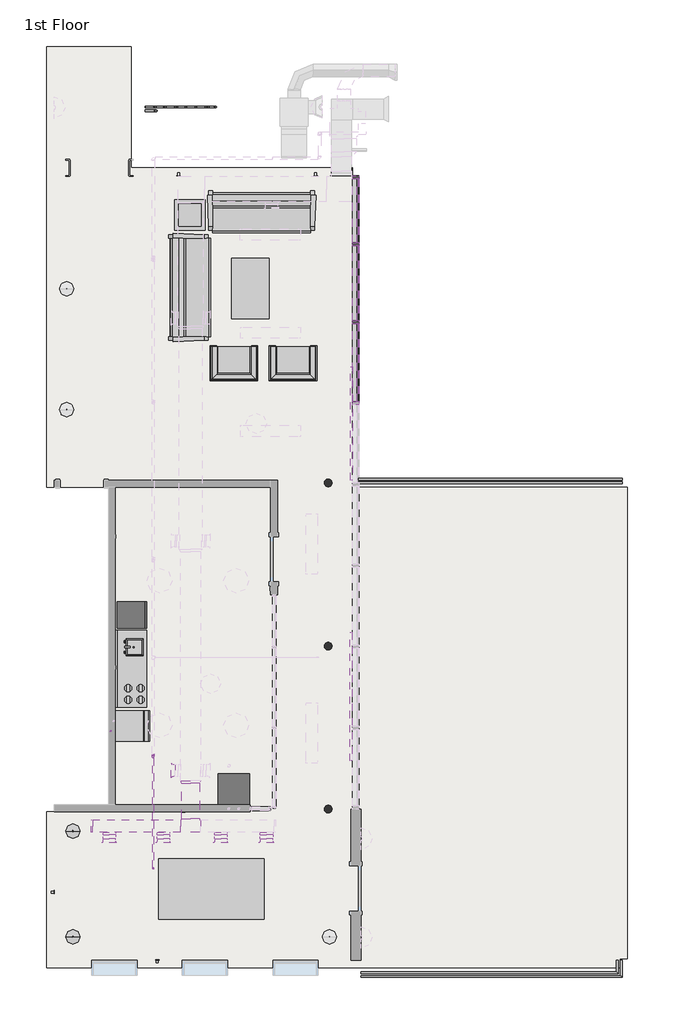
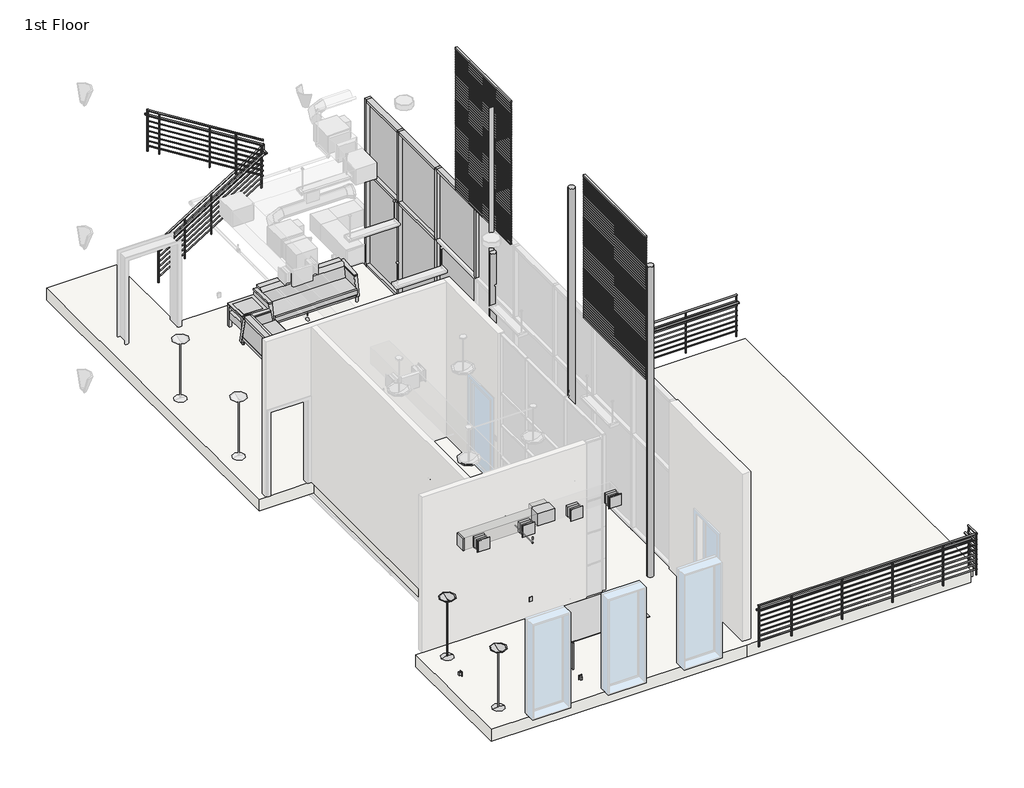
# One storey, part 2 of 4: 15 members, 9 furniture elements, 9 pipe segments, 7 duct fittings, 7 pipe fittings, 6 duct segments, 6 plates, 5 air terminals, 18 other elements.
"""IFC4 building model written with IfcOpenShell, lengths in millimetres."""

from ifc_helpers import new_model, si_unit, point, frame, frame_2d, origin, place, context, project, spatial, polyline, circle_curve, trimmed, segment, composite_curve, outline, extrude, faceted_brep, transform, mapped, element, save
from ifc_brep_helpers import plane_surface, cylinder_surface, advanced_brep
from components import air_terminal_0139ce82, air_terminal_37217d21, receptacle_gfci_367a9a66, rectangular_duct_endcap_standard_df86e6dc, rectangular_duct_takeoff_sidewall_standard_8ecd27dc, rectangular_duct_takeoff_sidewall_standard_de4d9739, rectangular_duct_tee_standard_5efa4bea, rectangular_duct_transition_standard_857d146e, fire_suppression_terminal_f250fbbb, flow_terminal_a640307d, flow_terminal_5101ce26, flow_terminal_2c84fc24, chair_corbu_chair_corbu_2764bdef, furniture_79813b58, furniture_fb1f61f5, furniture_102613a1, furniture_c1a6d451, furniture_480b9389, furniture_73d83834, light_fixture_120v_8a54b260, member_d60e8053, member_2fae0574, member_f0fea5a5, member_245f6595, member_6ce1ec76, member_69c58ec1, member_798c2a08, member_d386c7f1, member_ee409385, pipe_elbow_standard_aad62f2d, pipe_elbow1_standard_2_91f5270b, pipe_tee_standard_60c871d1, pipe_transition_eccentric_standard_8de4c794, system_panel_system_panel_6ff97b90, system_panel_system_panel_37b3a9aa, system_panel_system_panel_32437ed1, system_panel_system_panel_6c834083, system_panel_system_panel_0b02f3c1, system_panel_system_panel_958c1d96, guardrail_pipe_636c1e23, guardrail_pipe_18aa489d, guardrail_pipe_fbcf2664

model = new_model("IFC4")

# Units and contexts
model_context = context("Model", 3, world=origin())
ifc_project = project(units=[si_unit("LENGTHUNIT", "METRE", prefix="MILLI")], contexts=[model_context])

# Site, building, storey
site = spatial("IfcSite", under=ifc_project)
building = spatial("IfcBuilding", under=site)
storey = spatial("IfcBuildingStorey", under=building, Name="1st Floor", Elevation=3657.6)

# Air terminals
placement = place(None, origin())
air_terminal_shape = air_terminal_0139ce82(model_context)
element("IfcAirTerminal", 1, ObjectType="Sidewall Diffuser : 10\" x 10\"", at=placement, inside=storey, context=model_context, shape_type="MappedRepresentation", body=[
    mapped(air_terminal_shape, transform((-2094.0773731, -2854.6189983, 6400.8), x_axis=(0.0, 1.0, 0.0), y_axis=(-1.0, 0.0, 0.0), z_axis=(0.0, 0.0, 1.0))),
])
air_terminal_2_shape = air_terminal_37217d21(model_context)
element("IfcAirTerminal", 2, ObjectType="Sidewall Diffuser : 10\" x 10\"", at=placement, inside=storey, context=model_context, shape_type="MappedRepresentation", body=[
    mapped(air_terminal_2_shape, transform((-1095.1939612, -4307.6560979, 6400.8), x_axis=(1.0, 0.0, 0.0), y_axis=(0.0, 1.0, 0.0), z_axis=(0.0, 0.0, 1.0))),
])
element("IfcAirTerminal", 3, ObjectType="Sidewall Diffuser : 10\" x 10\"", at=placement, inside=storey, context=model_context, shape_type="MappedRepresentation", body=[
    mapped(air_terminal_2_shape, transform((-174.4439612, -4307.6560979, 6400.8), x_axis=(1.0, 0.0, 0.0), y_axis=(0.0, 1.0, 0.0), z_axis=(0.0, 0.0, 1.0))),
])
element("IfcAirTerminal", 4, ObjectType="Sidewall Diffuser : 10\" x 10\"", at=placement, inside=storey, context=model_context, shape_type="MappedRepresentation", body=[
    mapped(air_terminal_shape, transform((-2257.2439612, -4307.6560979, 6400.8), x_axis=(-1.0, 0.0, 0.0), y_axis=(0.0, -1.0, 0.0), z_axis=(0.0, 0.0, 1.0))),
])
element("IfcAirTerminal", 5, ObjectType="Sidewall Diffuser : 10\" x 10\"", at=placement, inside=storey, context=model_context, shape_type="MappedRepresentation", body=[
    mapped(air_terminal_shape, transform((-3349.4439612, -4307.6560979, 6400.8), x_axis=(-1.0, 0.0, 0.0), y_axis=(0.0, -1.0, 0.0), z_axis=(0.0, 0.0, 1.0))),
])

# Proxies
receptacle_gfci_shape = receptacle_gfci_367a9a66(model_context)
element("IfcBuildingElementProxy", 6, Name="Receptacle : Standard", ObjectType="Receptacle : Standard", at=placement, inside=storey, context=model_context, shape_type="MappedRepresentation", body=[
    mapped(receptacle_gfci_shape, transform((-2536.6439612, -3553.1189983, 4114.8), x_axis=(-1.0, 0.0, 0.0), y_axis=(0.0, 0.0, 1.0), z_axis=(0.0, 1.0, 0.0))),
])
element("IfcBuildingElementProxy", 7, Name="Receptacle : Standard", ObjectType="Receptacle : Standard", at=placement, inside=storey, context=model_context, shape_type="MappedRepresentation", body=[
    mapped(receptacle_gfci_shape, transform((-1853.9604947, -3692.8189983, 4114.8), x_axis=(1.0, 0.0, 0.0), y_axis=(0.0, 0.0, 1.0), z_axis=(0.0, -1.0, 0.0))),
])
element("IfcBuildingElementProxy", 8, Name="Receptacle : Standard", ObjectType="Receptacle : Standard", at=placement, inside=storey, context=model_context, shape_type="MappedRepresentation", body=[
    mapped(receptacle_gfci_shape, transform((-4467.0439612, -5312.940357, 4114.8), x_axis=(0.0, 1.0, 0.0), y_axis=(0.0, 0.0, 1.0), z_axis=(1.0, 0.0, 0.0))),
])
element("IfcBuildingElementProxy", 9, Name="Receptacle : Standard", ObjectType="Receptacle : Standard", at=placement, inside=storey, context=model_context, shape_type="MappedRepresentation", body=[
    mapped(receptacle_gfci_shape, transform((-2384.2439612, -6684.540357, 4114.8), x_axis=(-1.0, 0.0, 0.0), y_axis=(0.0, 0.0, 1.0), z_axis=(0.0, 1.0, 0.0))),
])

# Columns
element("IfcColumn", 10, ObjectType="Round Column : 06\" Diameter", at=placement, inside=storey, context=model_context, shape_type="AdvancedBrep", body=[
    advanced_brep(
    [(1126.1605983, 3000.0810017, 11582.4), (1070.1560388, 3024.609643, 11582.4), (1014.1514793, 3000.0810017, 11582.4), (1146.3560388, 2948.409643, 3657.6), (993.9560388, 2948.409643, 3657.6), (1070.1560388, 3024.609643, 3657.6), (1126.1605983, 3000.0810017, 7924.8), (1146.3560388, 2948.409643, 7924.8), (993.9560388, 2948.409643, 7924.8), (1014.1514793, 3000.0810017, 7924.8)],
    [
        (0, 1, circle_curve(frame((1070.1560388, 2948.409643, 11582.4), z_axis=(0.0, 0.0, 1.0), x_axis=(1.0, 0.0, 0.0)), 76.2)),
        (1, 2, circle_curve(frame((1070.1560388, 2948.409643, 11582.4), z_axis=(0.0, 0.0, 1.0), x_axis=(1.0, 0.0, 0.0)), 76.2)),
        (2, 0),
        (3, 4, circle_curve(frame((1070.1560388, 2948.409643, 3657.6), z_axis=(0.0, 0.0, -1.0), x_axis=(1.0, 0.0, 0.0)), 76.2)),
        (4, 5, circle_curve(frame((1070.1560388, 2948.409643, 3657.6), z_axis=(0.0, 0.0, -1.0), x_axis=(1.0, 0.0, 0.0)), 76.2)),
        (5, 3, circle_curve(frame((1070.1560388, 2948.409643, 3657.6), z_axis=(0.0, 0.0, -1.0), x_axis=(1.0, 0.0, 0.0)), 76.2)),
        (5, 1),
        (0, 6),
        (6, 7, circle_curve(frame((1070.1560388, 2948.409643, 7924.8), z_axis=(0.0, 0.0, -1.0), x_axis=(1.0, 0.0, 0.0)), 76.2)),
        (7, 3),
        (4, 8),
        (8, 9, circle_curve(frame((1070.1560388, 2948.409643, 7924.8), z_axis=(0.0, 0.0, -1.0), x_axis=(1.0, 0.0, 0.0)), 76.2)),
        (9, 2),
        (7, 8, circle_curve(frame((1070.1560388, 2948.409643, 7924.8), z_axis=(0.0, 0.0, -1.0), x_axis=(1.0, 0.0, 0.0)), 76.2)),
        (9, 6),
    ],
    [
        plane_surface(frame((1146.3560388, 2948.409643, 11582.4), z_axis=(0.0, 0.0, 1.0), x_axis=(0.0, 1.0, 0.0))),
        plane_surface(frame((1146.3560388, 2948.409643, 3657.6), z_axis=(0.0, 0.0, -1.0), x_axis=(0.0, -1.0, 0.0))),
        cylinder_surface(frame((1070.1560388, 2948.409643, 3657.6), z_axis=(0.0, 0.0, 1.0), x_axis=(1.0, 0.0, 0.0)), 76.2),
        plane_surface(frame((-4460.5633563, 3000.0810017, 7924.8), z_axis=(0.0, -1.0, 0.0), x_axis=(-1.0, 0.0, 0.0))),
        plane_surface(frame((-2819.1604947, 2860.3810017, 7924.8), z_axis=(0.0, 0.0, 1.0), x_axis=(0.0, 1.0, 0.0))),
    ],
    [
        (0, [[1, 2, 3]]),
        (1, [[4, 5, 6]]),
        (2, [[-6, 7, -1, 8, 9, 10]]),
        (2, [[-5, 11, 12, 13, -2, -7]]),
        (2, [[-4, -10, 14, -11]]),
        (3, [[15, -8, -3, -13]]),
        (4, [[-15, -12, -14, -9]]),
    ],
),
])
element("IfcColumn", 11, ObjectType="Round Column : 06\" Diameter", at=placement, inside=storey, context=model_context, shape_type="SweptSolid", body=[
    extrude(outline(composite_curve([segment(trimmed(circle_curve(frame_2d((1070.1560388, -347.240357)), 76.2), [point((1146.3560388, -347.240357))], [point((993.9560388, -347.240357))], False, "CARTESIAN"), True, "CONTINUOUS"), segment(trimmed(circle_curve(frame_2d((1070.1560388, -347.240357)), 76.2), [point((993.9560388, -347.240357))], [point((1070.1560388, -271.040357))], False, "CARTESIAN"), True, "CONTINUOUS"), segment(trimmed(circle_curve(frame_2d((1070.1560388, -347.240357)), 76.2), [point((1070.1560388, -271.040357))], [point((1146.3560388, -347.240357))], False, "CARTESIAN"), True, "CONTINUOUS")], self_intersect=False)), frame((0.0, 0.0, 3657.6), z_axis=(0.0, 0.0, 1.0), x_axis=(1.0, 0.0, 0.0)), (0.0, 0.0, 1.0), 7924.8),
])
element("IfcColumn", 12, ObjectType="Round Column : 06\" Diameter", at=placement, inside=storey, context=model_context, shape_type="SweptSolid", body=[
    extrude(outline(composite_curve([segment(trimmed(circle_curve(frame_2d((1070.1560388, -3636.540357)), 76.2), [point((1146.3560388, -3636.540357))], [point((993.9560388, -3636.540357))], False, "CARTESIAN"), True, "CONTINUOUS"), segment(trimmed(circle_curve(frame_2d((1070.1560388, -3636.540357)), 76.2), [point((993.9560388, -3636.540357))], [point((1070.1560388, -3560.340357))], False, "CARTESIAN"), True, "CONTINUOUS"), segment(trimmed(circle_curve(frame_2d((1070.1560388, -3636.540357)), 76.2), [point((1070.1560388, -3560.340357))], [point((1146.3560388, -3636.540357))], False, "CARTESIAN"), True, "CONTINUOUS")], self_intersect=False)), frame((0.0, 0.0, 3657.6), z_axis=(0.0, 0.0, 1.0), x_axis=(1.0, 0.0, 0.0)), (0.0, 0.0, 1.0), 7924.8),
])

# Duct fittings
rectangular_duct_endcap_standard_shape = rectangular_duct_endcap_standard_df86e6dc(model_context)
element("IfcDuctFitting", 13, ObjectType="Rectangular Duct Endcap : Standard", at=placement, inside=storey, context=model_context, shape_type="MappedRepresentation", body=[
    mapped(rectangular_duct_endcap_standard_shape, transform((-3690.0783838, -3978.5689983, 6400.8), x_axis=(-1.0, 0.0, 0.0), y_axis=(0.0, -1.0, 0.0), z_axis=(0.0, 0.0, 1.0))),
])
rectangular_duct_takeoff_sidewall_standard_shape = rectangular_duct_takeoff_sidewall_standard_8ecd27dc(model_context)
element("IfcDuctFitting", 14, ObjectType="Rectangular Duct Takeoff - Sidewall : Standard", at=placement, inside=storey, context=model_context, shape_type="MappedRepresentation", body=[
    mapped(rectangular_duct_takeoff_sidewall_standard_shape, transform((-1095.1939612, -4105.5689983, 6400.8), x_axis=(0.0, -1.0, 0.0), y_axis=(-1.0, 0.0, 0.0), z_axis=(0.0, 0.0, -1.0))),
])
rectangular_duct_takeoff_sidewall_standard_2_shape = rectangular_duct_takeoff_sidewall_standard_de4d9739(model_context)
element("IfcDuctFitting", 15, ObjectType="Rectangular Duct Takeoff - Sidewall : Standard", at=placement, inside=storey, context=model_context, shape_type="MappedRepresentation", body=[
    mapped(rectangular_duct_takeoff_sidewall_standard_2_shape, transform((-3349.4439612, -4105.5689983, 6400.8), x_axis=(0.0, -1.0, 0.0), y_axis=(-1.0, 0.0, 0.0), z_axis=(0.0, 0.0, -1.0))),
])
element("IfcDuctFitting", 16, ObjectType="Rectangular Duct Takeoff - Sidewall : Standard", at=placement, inside=storey, context=model_context, shape_type="MappedRepresentation", body=[
    mapped(rectangular_duct_takeoff_sidewall_standard_2_shape, transform((-2257.2439612, -4105.5689983, 6400.8), x_axis=(0.0, -1.0, 0.0), y_axis=(-1.0, 0.0, 0.0), z_axis=(0.0, 0.0, -1.0))),
])
element("IfcDuctFitting", 17, ObjectType="Rectangular Duct Takeoff - Sidewall : Standard", at=placement, inside=storey, context=model_context, shape_type="MappedRepresentation", body=[
    mapped(rectangular_duct_takeoff_sidewall_standard_2_shape, transform((-174.4439612, -4105.5689983, 6400.8), x_axis=(0.0, -1.0, 0.0), y_axis=(-1.0, 0.0, 0.0), z_axis=(0.0, 0.0, -1.0))),
])
rectangular_duct_tee_standard_shape = rectangular_duct_tee_standard_5efa4bea(model_context)
element("IfcDuctFitting", 18, ObjectType="Rectangular Duct Tee : Standard", at=placement, inside=storey, context=model_context, shape_type="MappedRepresentation", body=[
    mapped(rectangular_duct_tee_standard_shape, transform((-1708.8783838, -3978.5689983, 6400.8), x_axis=(-1.0, 0.0, 0.0), y_axis=(0.0, -1.0, 0.0), z_axis=(0.0, 0.0, 1.0))),
])
rectangular_duct_transition_standard_shape = rectangular_duct_transition_standard_857d146e(model_context)
element("IfcDuctFitting", 19, ObjectType="Rectangular Duct Transition : Standard", at=placement, inside=storey, context=model_context, shape_type="MappedRepresentation", body=[
    mapped(rectangular_duct_transition_standard_shape, transform((-1708.8783838, -3061.2262132, 6400.8), x_axis=(0.0, -1.0, 0.0), y_axis=(-1.0, 0.0, 0.0), z_axis=(0.0, 0.0, -1.0))),
])

# Duct segments
element("IfcDuctSegment", 20, ObjectType="Mitered Elbows / Taps Sidewall", at=placement, inside=storey, context=model_context, shape_type="SweptSolid", body=[
    extrude(outline(polyline([(-3476.4439612, -4156.3689983), (-3222.4439612, -4156.3689983), (-3222.4439612, -4231.4560979), (-3476.4439612, -4231.4560979), (-3476.4439612, -4156.3689983)])), frame((0.0, 0.0, 6273.8), z_axis=(0.0, 0.0, 1.0), x_axis=(1.0, 0.0, 0.0)), (0.0, 0.0, 1.0), 254.0),
])
element("IfcDuctSegment", 21, ObjectType="Mitered Elbows / Taps Sidewall", at=placement, inside=storey, context=model_context, shape_type="SweptSolid", body=[
    extrude(outline(polyline([(-2384.2439612, -4156.3689983), (-2130.2439612, -4156.3689983), (-2130.2439612, -4231.4560979), (-2384.2439612, -4231.4560979), (-2384.2439612, -4156.3689983)])), frame((0.0, 0.0, 6273.8), z_axis=(0.0, 0.0, 1.0), x_axis=(1.0, 0.0, 0.0)), (0.0, 0.0, 1.0), 254.0),
])
element("IfcDuctSegment", 22, ObjectType="Mitered Elbows / Taps Sidewall", at=placement, inside=storey, context=model_context, shape_type="SweptSolid", body=[
    extrude(outline(polyline([(-1222.1939612, -4156.3689983), (-968.1939612, -4156.3689983), (-968.1939612, -4231.4560979), (-1222.1939612, -4231.4560979), (-1222.1939612, -4156.3689983)])), frame((0.0, 0.0, 6273.8), z_axis=(0.0, 0.0, 1.0), x_axis=(1.0, 0.0, 0.0)), (0.0, 0.0, 1.0), 254.0),
])
element("IfcDuctSegment", 23, ObjectType="Mitered Elbows / Taps Sidewall", at=placement, inside=storey, context=model_context, shape_type="SweptSolid", body=[
    extrude(outline(polyline([(-301.4439612, -4156.3689983), (-47.4439612, -4156.3689983), (-47.4439612, -4231.4560979), (-301.4439612, -4231.4560979), (-301.4439612, -4156.3689983)])), frame((0.0, 0.0, 6273.8), z_axis=(0.0, 0.0, 1.0), x_axis=(1.0, 0.0, 0.0)), (0.0, 0.0, 1.0), 254.0),
])
element("IfcDuctSegment", 24, ObjectType="Mitered Elbows / Tees", at=placement, inside=storey, context=model_context, shape_type="SweptSolid", body=[
    extrude(outline(polyline([(-1886.6783838, -3112.0262132), (-1531.0783838, -3112.0262132), (-1531.0783838, -3826.1689983), (-1886.6783838, -3826.1689983), (-1886.6783838, -3112.0262132)])), frame((0.0, 0.0, 6248.4), z_axis=(0.0, 0.0, 1.0), x_axis=(1.0, 0.0, 0.0)), (0.0, 0.0, 1.0), 304.8),
])
element("IfcDuctSegment", 25, ObjectType="Radius Elbows / Tees", at=placement, inside=storey, context=model_context, shape_type="SweptSolid", body=[
    extrude(outline(polyline([(-1912.0783838, -3851.5689983), (-1912.0783838, -4105.5689983), (-3690.0783838, -4105.5689983), (-3690.0783838, -3851.5689983), (-1912.0783838, -3851.5689983)])), frame((0.0, 0.0, 6248.4), z_axis=(0.0, 0.0, 1.0), x_axis=(1.0, 0.0, 0.0)), (0.0, 0.0, 1.0), 304.8),
])

# Fire suppression terminals
fire_suppression_terminal_shape = fire_suppression_terminal_f250fbbb(model_context)
element("IfcFireSuppressionTerminal", 26, ObjectType="Sprinkler - Upright : 1/2\" Upright", at=placement, inside=storey, context=model_context, shape_type="MappedRepresentation", body=[
    mapped(fire_suppression_terminal_shape, transform((-2463.5604947, -2556.1689983, 6553.2), x_axis=(1.0, 0.0, 0.0), y_axis=(0.0, 1.0, 0.0), z_axis=(0.0, 0.0, 1.0))),
])
element("IfcFireSuppressionTerminal", 27, ObjectType="Sprinkler - Upright : 1/2\" Upright", at=placement, inside=storey, context=model_context, shape_type="MappedRepresentation", body=[
    mapped(fire_suppression_terminal_shape, transform((-2463.5604947, -4842.1689983, 6553.2), x_axis=(1.0, 0.0, 0.0), y_axis=(0.0, 1.0, 0.0), z_axis=(0.0, 0.0, 1.0))),
])

# Flow terminals
flow_terminal_shape = flow_terminal_a640307d(model_context)
element("IfcFlowTerminal", 28, ObjectType="Dishwasher : 24\"x26\"", at=placement, inside=storey, context=model_context, shape_type="MappedRepresentation", body=[
    mapped(flow_terminal_shape, transform((-3228.7939612, -1960.1220659, 3657.6), x_axis=(1.0, 0.0, 0.0), y_axis=(0.0, 1.0, 0.0), z_axis=(0.0, 0.0, 1.0))),
])
flow_terminal_2_shape = flow_terminal_5101ce26(model_context)
element("IfcFlowTerminal", 29, ObjectType="Kitchen Unit : 25\"x84\"", at=placement, inside=storey, context=model_context, shape_type="MappedRepresentation", body=[
    mapped(flow_terminal_2_shape, transform((-3228.788311, -804.440357, 3656.7916082), x_axis=(1.0, 0.0, 0.0), y_axis=(0.0, 1.0, 0.0), z_axis=(0.0, 0.0, 1.0))),
])
flow_terminal_3_shape = flow_terminal_2c84fc24(model_context)
element("IfcFlowTerminal", 30, ObjectType="Stacked Washer and Dryer : 26\" x 25\"", at=placement, inside=storey, context=model_context, shape_type="MappedRepresentation", body=[
    mapped(flow_terminal_3_shape, transform((-835.4514215, -3584.8689983, 3657.6), x_axis=(0.0, 1.0000000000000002, 0.0), y_axis=(-1.0000000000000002, 0.0, 0.0), z_axis=(0.0, 0.0, 1.0))),
])

# Furniture
chair_corbu_chair_corbu_shape = chair_corbu_chair_corbu_2764bdef(model_context)
element("IfcFurniture", 31, ObjectType="Chair-Corbu : Chair-Corbu", at=placement, inside=storey, context=model_context, shape_type="MappedRepresentation", body=[
    mapped(chair_corbu_chair_corbu_shape, transform((-261.4701907, 5828.6440797, 3657.6), x_axis=(-1.0, 0.0, 0.0), y_axis=(0.0, -1.0, 0.0), z_axis=(0.0, 0.0, 1.0))),
])
element("IfcFurniture", 32, ObjectType="Chair-Corbu : Chair-Corbu", at=placement, inside=storey, context=model_context, shape_type="MappedRepresentation", body=[
    mapped(chair_corbu_chair_corbu_shape, transform((932.3298093, 5828.6440797, 3657.6), x_axis=(-1.0, 0.0, 0.0), y_axis=(0.0, -1.0, 0.0), z_axis=(0.0, 0.0, 1.0))),
])
furniture_shape = furniture_79813b58(model_context)
element("IfcFurniture", 33, ObjectType="Living Room Tables : 24\" x 24\" x 23\"", at=placement, inside=storey, context=model_context, shape_type="MappedRepresentation", body=[
    mapped(furniture_shape, transform((-1740.3528156, 8260.8417791, 3657.6), x_axis=(1.0, 0.0, 0.0), y_axis=(0.0, 1.0, 0.0), z_axis=(0.0, 0.0, 1.0))),
])
furniture_2_shape = furniture_fb1f61f5(model_context)
element("IfcFurniture", 34, ObjectType="Sofa-Pensi : 84\"", at=placement, inside=storey, context=model_context, shape_type="MappedRepresentation", body=[
    mapped(furniture_2_shape, transform((-553.8564612, 8140.9399708, 3657.6), x_axis=(1.0, 0.0, 0.0), y_axis=(0.0, 1.0, 0.0), z_axis=(0.0, 0.0, 1.0))),
])
element("IfcFurniture", 35, ObjectType="Sofa-Pensi : 84\"", at=placement, inside=storey, context=model_context, shape_type="MappedRepresentation", body=[
    mapped(furniture_2_shape, transform((-1450.4373261, 6613.947143, 3657.6), x_axis=(0.0, 1.0, 0.0), y_axis=(-1.0, 0.0, 0.0), z_axis=(0.0, 0.0, 1.0))),
])
furniture_3_shape = furniture_102613a1(model_context)
element("IfcFurniture", 36, ObjectType="Table-Coffee Rectangular : 48\" x 30\"", at=placement, inside=storey, context=model_context, shape_type="MappedRepresentation", body=[
    mapped(furniture_3_shape, transform((-135.0331294, 6259.5754363, 3657.6), x_axis=(0.0, 1.0000000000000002, 0.0), y_axis=(-1.0000000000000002, 0.0, 0.0), z_axis=(0.0, 0.0, 1.0))),
])
furniture_4_shape = furniture_c1a6d451(model_context)
element("IfcFurniture", 37, ObjectType="Table-Dining : 48\" x 84\" x 30\"", at=placement, inside=storey, context=model_context, shape_type="MappedRepresentation", body=[
    mapped(furniture_4_shape, transform((-1310.3097279, -5343.7800761, 3657.6), x_axis=(1.0, 0.0, 0.0), y_axis=(0.0, 1.0, 0.0), z_axis=(0.0, 0.0, 1.0))),
])
furniture_5_shape = furniture_480b9389(model_context)
element("IfcFurniture", 38, ObjectType="Wooden Blinds : 7' 6\" x 12'", at=placement, inside=storey, context=model_context, shape_type="MappedRepresentation", body=[
    mapped(furniture_5_shape, transform((1521.0060388, 3004.8435017, 11582.4), x_axis=(0.0, 1.0, 0.0), y_axis=(1.0, 0.0, 0.0), z_axis=(0.0, 0.0, -1.0))),
])
furniture_6_shape = furniture_73d83834(model_context)
element("IfcFurniture", 39, ObjectType="Wooden Blinds : 8' 6\" x 12'", at=placement, inside=storey, context=model_context, shape_type="MappedRepresentation", body=[
    mapped(furniture_6_shape, transform((1514.6560388, -2661.2825454, 11582.4), x_axis=(0.0, 1.0, 0.0), y_axis=(1.0, 0.0, 0.0), z_axis=(0.0, 0.0, -1.0))),
])

# Light fixtures
light_fixture_120v_shape = light_fixture_120v_8a54b260(model_context)
element("IfcLightFixture", 40, ObjectType="Floor Lamp - Torchiere : 120V", at=placement, inside=storey, context=model_context, shape_type="MappedRepresentation", body=[
    mapped(light_fixture_120v_shape, transform((-4086.0439612, -6213.7689983, 3657.6), x_axis=(1.0, 0.0, 0.0), y_axis=(0.0, 1.0, 0.0), z_axis=(0.0, 0.0, 1.0))),
])
element("IfcLightFixture", 41, ObjectType="Floor Lamp - Torchiere : 120V", at=placement, inside=storey, context=model_context, shape_type="MappedRepresentation", body=[
    mapped(light_fixture_120v_shape, transform((-4086.0439612, -4080.1689983, 3657.6), x_axis=(1.0, 0.0, 0.0), y_axis=(0.0, 1.0, 0.0), z_axis=(0.0, 0.0, 1.0))),
])

# Members
member_shape = member_d60e8053(model_context)
element("IfcMember", 42, ObjectType="Rectangular Mullion : 2.5\" x 5\" rectangular", at=placement, inside=storey, context=model_context, shape_type="MappedRepresentation", body=[
    mapped(member_shape, transform((1628.9560388, 6193.259643, 6096.0), x_axis=(0.0, -1.0, 0.0), y_axis=(-1.0, 0.0, 0.0), z_axis=(0.0, 0.0, -1.0))),
])
element("IfcMember", 43, ObjectType="Rectangular Mullion : 2.5\" x 5\" rectangular", at=placement, inside=storey, context=model_context, shape_type="MappedRepresentation", body=[
    mapped(member_shape, transform((1628.9560388, 4554.959643, 6096.0), x_axis=(0.0, -1.0, 0.0), y_axis=(-1.0, 0.0, 0.0), z_axis=(0.0, 0.0, -1.0))),
])
element("IfcMember", 44, ObjectType="Rectangular Mullion : 2.5\" x 5\" rectangular", at=placement, inside=storey, context=model_context, shape_type="MappedRepresentation", body=[
    mapped(member_shape, transform((1628.9560388, 7768.059643, 6096.0), x_axis=(0.0, -1.0, 0.0), y_axis=(-1.0, 0.0, 0.0), z_axis=(0.0, 0.0, -1.0))),
])
member_2_shape = member_2fae0574(model_context)
element("IfcMember", 45, ObjectType="Rectangular Mullion : 2.5\" x 5\" rectangular", at=placement, inside=storey, context=model_context, shape_type="MappedRepresentation", body=[
    mapped(member_2_shape, transform((1628.9560388, 9152.359643, 7924.8), x_axis=(0.0, 1.0, 0.0), y_axis=(-1.0, 0.0, 0.0), z_axis=(0.0, 0.0, 1.0))),
])
member_3_shape = member_f0fea5a5(model_context)
element("IfcMember", 46, ObjectType="Rectangular Mullion : 2.5\" x 5\" rectangular", at=placement, inside=storey, context=model_context, shape_type="MappedRepresentation", body=[
    mapped(member_3_shape, transform((1628.9560388, 6193.259643, 3657.6), x_axis=(0.0, -1.0, 0.0), y_axis=(-1.0, 0.0, 0.0), z_axis=(0.0, 0.0, -1.0))),
])
element("IfcMember", 47, ObjectType="Rectangular Mullion : 2.5\" x 5\" rectangular", at=placement, inside=storey, context=model_context, shape_type="MappedRepresentation", body=[
    mapped(member_3_shape, transform((1628.9560388, 7768.059643, 3657.6), x_axis=(0.0, -1.0, 0.0), y_axis=(-1.0, 0.0, 0.0), z_axis=(0.0, 0.0, -1.0))),
])
member_4_shape = member_245f6595(model_context)
element("IfcMember", 48, ObjectType="Rectangular Mullion : 2.5\" x 5\" rectangular", at=placement, inside=storey, context=model_context, shape_type="MappedRepresentation", body=[
    mapped(member_4_shape, transform((1628.9560388, 6225.009643, 6096.0), x_axis=(0.0, 0.0, 1.0), y_axis=(-1.0, 0.0, 0.0), z_axis=(0.0, -1.0, 0.0))),
])
member_5_shape = member_6ce1ec76(model_context)
element("IfcMember", 49, ObjectType="Rectangular Mullion : 2.5\" x 5\" rectangular", at=placement, inside=storey, context=model_context, shape_type="MappedRepresentation", body=[
    mapped(member_5_shape, transform((1628.9560388, 4586.709643, 7924.8), x_axis=(0.0, 0.0, 1.0), y_axis=(-1.0, 0.0, 0.0), z_axis=(0.0, -1.0, 0.0))),
])
member_6_shape = member_69c58ec1(model_context)
element("IfcMember", 50, ObjectType="Rectangular Mullion : 2.5\" x 5\" rectangular", at=placement, inside=storey, context=model_context, shape_type="MappedRepresentation", body=[
    mapped(member_6_shape, transform((1628.9560388, 6225.009643, 7924.8), x_axis=(0.0, 0.0, 1.0), y_axis=(-1.0, 0.0, 0.0), z_axis=(0.0, -1.0, 0.0))),
])
member_7_shape = member_798c2a08(model_context)
element("IfcMember", 51, ObjectType="Rectangular Mullion : 2.5\" x 5\" rectangular", at=placement, inside=storey, context=model_context, shape_type="MappedRepresentation", body=[
    mapped(member_7_shape, transform((1628.9560388, 7799.809643, 7924.8), x_axis=(0.0, 0.0, 1.0), y_axis=(-1.0, 0.0, 0.0), z_axis=(0.0, -1.0, 0.0))),
])
member_8_shape = member_d386c7f1(model_context)
element("IfcMember", 52, ObjectType="Rectangular Mullion : 2.5\" x 5\" rectangular", at=placement, inside=storey, context=model_context, shape_type="MappedRepresentation", body=[
    mapped(member_8_shape, transform((1628.9560388, 7799.809643, 6096.0), x_axis=(0.0, 0.0, 1.0), y_axis=(-1.0, 0.0, 0.0), z_axis=(0.0, -1.0, 0.0))),
])
element("IfcMember", 53, ObjectType="Rectangular Mullion : 2.5\" x 5\" rectangular", at=placement, inside=storey, context=model_context, shape_type="MappedRepresentation", body=[
    mapped(member_7_shape, transform((1628.9560388, 9088.859643, 3657.6), x_axis=(0.0, 0.0, -1.0), y_axis=(-1.0, 0.0, 0.0), z_axis=(0.0, 1.0, 0.0))),
])
element("IfcMember", 54, ObjectType="Rectangular Mullion : 2.5\" x 5\" rectangular", at=placement, inside=storey, context=model_context, shape_type="MappedRepresentation", body=[
    mapped(member_5_shape, transform((1628.9560388, 6161.509643, 3657.6), x_axis=(0.0, 0.0, -1.0), y_axis=(-1.0, 0.0, 0.0), z_axis=(0.0, 1.0, 0.0))),
])
element("IfcMember", 55, ObjectType="Rectangular Mullion : 2.5\" x 5\" rectangular", at=placement, inside=storey, context=model_context, shape_type="MappedRepresentation", body=[
    mapped(member_6_shape, transform((1628.9560388, 7736.309643, 3657.6), x_axis=(0.0, 0.0, -1.0), y_axis=(-1.0, 0.0, 0.0), z_axis=(0.0, 1.0, 0.0))),
])
member_9_shape = member_ee409385(model_context)
element("IfcMember", 56, ObjectType="Rectangular Mullion : 2.5\" x 5\" rectangular", at=placement, inside=storey, context=model_context, shape_type="MappedRepresentation", body=[
    mapped(member_9_shape, transform((1628.9560388, 9152.359643, 6096.0), x_axis=(0.0, 1.0, 0.0), y_axis=(-1.0, 0.0, 0.0), z_axis=(0.0, 0.0, 1.0))),
])

# Pipe fittings
pipe_elbow_standard_shape = pipe_elbow_standard_aad62f2d(model_context)
element("IfcPipeFitting", 57, ObjectType="Pipe Elbow1 : Standard 2", at=placement, inside=storey, context=model_context, shape_type="MappedRepresentation", body=[
    mapped(pipe_elbow_standard_shape, transform((-3324.0439612, -2064.8991823, 3962.4), x_axis=(0.0, 0.0, -1.0), y_axis=(1.0, 0.0, 0.0), z_axis=(0.0, -1.0, 0.0))),
])
element("IfcPipeFitting", 58, ObjectType="Pipe Elbow1 : Standard 2", at=placement, inside=storey, context=model_context, shape_type="MappedRepresentation", body=[
    mapped(pipe_elbow_standard_shape, transform((-3324.0439612, -2064.8991823, 6705.6), x_axis=(0.0, 0.0, 1.0), y_axis=(0.0, 1.0, 0.0), z_axis=(-1.0, 0.0, 0.0))),
])
element("IfcPipeFitting", 59, ObjectType="Pipe Elbow1 : Standard 2", at=placement, inside=storey, context=model_context, shape_type="MappedRepresentation", body=[
    mapped(pipe_elbow_standard_shape, transform((-2463.5604947, -4842.1689983, 6451.6), x_axis=(0.0, 0.0, -1.0), y_axis=(0.0, 1.0, 0.0), z_axis=(1.0, 0.0, 0.0))),
])
pipe_elbow1_standard_2_shape = pipe_elbow1_standard_2_91f5270b(model_context)
element("IfcPipeFitting", 60, ObjectType="Pipe Elbow1 : Standard 2", at=placement, inside=storey, context=model_context, shape_type="MappedRepresentation", body=[
    mapped(pipe_elbow1_standard_2_shape, transform((-3298.6295637, -3638.7114887, 3295.8687628), x_axis=(0.0, -0.9999457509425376, 0.01041610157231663), y_axis=(0.999945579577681, 0.00010866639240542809, 0.010431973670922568), z_axis=(-0.010432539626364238, 0.010415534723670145, 0.999891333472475))),
])
pipe_tee_standard_shape = pipe_tee_standard_60c871d1(model_context)
element("IfcPipeFitting", 61, ObjectType="Pipe Tee : Standard", at=placement, inside=storey, context=model_context, shape_type="MappedRepresentation", body=[
    mapped(pipe_tee_standard_shape, transform((-2463.5604947, -2556.1689983, 6451.6), x_axis=(0.0, -1.0, 0.0), y_axis=(0.0, 0.0, -1.0), z_axis=(1.0, 0.0, 0.0))),
])
pipe_transition_eccentric_standard_shape = pipe_transition_eccentric_standard_8de4c794(model_context)
element("IfcPipeFitting", 62, ObjectType="Pipe Transition Eccentric : Standard", at=placement, inside=storey, context=model_context, shape_type="MappedRepresentation", body=[
    mapped(pipe_transition_eccentric_standard_shape, transform((-2463.5604947, -2589.5064983, 6451.6), x_axis=(0.0, -1.0, 0.0), y_axis=(0.0, 0.0, -1.0), z_axis=(1.0, 0.0, 0.0))),
])
element("IfcPipeFitting", 63, ObjectType="Pipe Transition Eccentric : Standard", at=placement, inside=storey, context=model_context, shape_type="MappedRepresentation", body=[
    mapped(pipe_transition_eccentric_standard_shape, transform((-2463.5604947, -2556.1689983, 6484.9375), x_axis=(0.0, 0.0, 1.0), y_axis=(0.0, -1.0, 0.0), z_axis=(1.0, 0.0, 0.0))),
])

# Pipe segments
element("IfcPipeSegment", 64, ObjectType="Standard", at=placement, inside=storey, context=model_context, shape_type="SweptSolid", body=[
    extrude(outline(composite_curve([segment(trimmed(circle_curve(frame_2d((4267.2, -937.0514215)), 14.2875), [point((4267.2, -951.3389215))], [point((4252.9125, -937.0514215))], False, "CARTESIAN"), True, "CONTINUOUS"), segment(trimmed(circle_curve(frame_2d((4267.2, -937.0514215)), 14.2875), [point((4252.9125, -937.0514215))], [point((4267.2, -922.7639215))], False, "CARTESIAN"), True, "CONTINUOUS"), segment(trimmed(circle_curve(frame_2d((4267.2, -937.0514215)), 14.2875), [point((4267.2, -922.7639215))], [point((4281.4875, -937.0514215))], False, "CARTESIAN"), True, "CONTINUOUS"), segment(trimmed(circle_curve(frame_2d((4267.2, -937.0514215)), 14.2875), [point((4281.4875, -937.0514215))], [point((4267.2, -951.3389215))], False, "CARTESIAN"), True, "CONTINUOUS")], self_intersect=False)), frame((0.0, -3612.727857, 0.0), z_axis=(0.0, 1.0, 0.0), x_axis=(0.0, 0.0, 1.0)), (0.0, 0.0, 1.0), 27.8588587),
])
element("IfcPipeSegment", 65, ObjectType="Standard", at=placement, inside=storey, context=model_context, shape_type="SweptSolid", body=[
    extrude(outline(composite_curve([segment(trimmed(circle_curve(frame_2d((-937.0514215, -3636.540357)), 14.2875), [point((-922.7639215, -3636.540357))], [point((-937.0514215, -3650.827857))], False, "CARTESIAN"), True, "CONTINUOUS"), segment(trimmed(circle_curve(frame_2d((-937.0514215, -3636.540357)), 14.2875), [point((-937.0514215, -3650.827857))], [point((-951.3389215, -3636.540357))], False, "CARTESIAN"), True, "CONTINUOUS"), segment(trimmed(circle_curve(frame_2d((-937.0514215, -3636.540357)), 14.2875), [point((-951.3389215, -3636.540357))], [point((-937.0514215, -3622.252857))], False, "CARTESIAN"), True, "CONTINUOUS"), segment(trimmed(circle_curve(frame_2d((-937.0514215, -3636.540357)), 14.2875), [point((-937.0514215, -3622.252857))], [point((-922.7639215, -3636.540357))], False, "CARTESIAN"), True, "CONTINUOUS")], self_intersect=False)), frame((0.0, 0.0, 4291.0125), z_axis=(0.0, 0.0, 1.0), x_axis=(1.0, 0.0, 0.0)), (0.0, 0.0, 1.0), 2289.175),
])
element("IfcPipeSegment", 66, ObjectType="Standard", at=placement, inside=storey, context=model_context, shape_type="SweptSolid", body=[
    extrude(outline(composite_curve([segment(trimmed(circle_curve(frame_2d((0.0, 26.9875)), 26.9875), [point((-26.9875, 26.9875))], [point((0.0, 53.975))], False, "CARTESIAN"), True, "CONTINUOUS"), segment(trimmed(circle_curve(frame_2d((0.0, 26.9875)), 26.9875), [point((0.0, 53.975))], [point((26.9875, 26.9875))], False, "CARTESIAN"), True, "CONTINUOUS"), segment(trimmed(circle_curve(frame_2d((0.0, 26.9875)), 26.9875), [point((26.9875, 26.9875))], [point((0.0, 0.0))], False, "CARTESIAN"), True, "CONTINUOUS"), segment(trimmed(circle_curve(frame_2d((0.0, 26.9875)), 26.9875), [point((0.0, 0.0))], [point((-26.9875, 26.9875))], False, "CARTESIAN"), True, "CONTINUOUS")], self_intersect=False)), frame((-3298.6295637, -1994.3440564, 3251.7558118), z_axis=(0.0, -0.9999457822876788, 0.010413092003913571), x_axis=(1.0, 0.0, 0.0)), (0.0, 0.0, 1.0), 1608.2290983),
])
element("IfcPipeSegment", 67, ObjectType="Standard", at=placement, inside=storey, context=model_context, shape_type="SweptSolid", body=[
    extrude(outline(composite_curve([segment(trimmed(circle_curve(frame_2d((0.0, -26.9875)), 26.9875), [point((0.0, 0.0))], [point((26.9874999, -26.9875))], False, "CARTESIAN"), True, "CONTINUOUS"), segment(trimmed(circle_curve(frame_2d((0.0, -26.9875)), 26.9875), [point((26.9874999, -26.9875))], [point((0.0, -53.975))], False, "CARTESIAN"), True, "CONTINUOUS"), segment(trimmed(circle_curve(frame_2d((0.0, -26.9875)), 26.9875), [point((0.0, -53.975))], [point((-26.9875, -26.9875))], False, "CARTESIAN"), True, "CONTINUOUS"), segment(trimmed(circle_curve(frame_2d((0.0, -26.9875)), 26.9875), [point((-26.9875, -26.9875))], [point((0.0, 0.0))], False, "CARTESIAN"), True, "CONTINUOUS")], self_intersect=False)), frame((-3262.1230184, -3611.7239887, 3296.2496601), z_axis=(0.9999455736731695, 0.0, 0.01043310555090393), x_axis=(0.01043310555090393, 0.0, -0.9999455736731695)), (0.0, 0.0, 1.0), 2390.6674798),
])
element("IfcPipeSegment", 68, ObjectType="Standard", at=placement, inside=storey, context=model_context, shape_type="SweptSolid", body=[
    extrude(outline(composite_curve([segment(trimmed(circle_curve(frame_2d((0.0, -7.9375)), 7.9375), [point((-7.9375, -7.9375))], [point((0.0, 0.0))], False, "CARTESIAN"), True, "CONTINUOUS"), segment(trimmed(circle_curve(frame_2d((0.0, -7.9375)), 7.9375), [point((0.0, 0.0))], [point((7.9375, -7.9375))], False, "CARTESIAN"), True, "CONTINUOUS"), segment(trimmed(circle_curve(frame_2d((0.0, -7.9375)), 7.9375), [point((7.9375, -7.9375))], [point((0.0, -15.875))], False, "CARTESIAN"), True, "CONTINUOUS"), segment(trimmed(circle_curve(frame_2d((0.0, -7.9375)), 7.9375), [point((0.0, -15.875))], [point((-7.9375, -7.9375))], False, "CARTESIAN"), True, "CONTINUOUS")], self_intersect=False)), frame((-3306.5814612, -2064.8991823, 3954.4625), z_axis=(0.9999999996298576, 2.720817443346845e-05, 0.0), x_axis=(2.720817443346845e-05, -0.9999999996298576, 0.0)), (0.0, 0.0, 1.0), 77.7875),
])
element("IfcPipeSegment", 69, ObjectType="Standard", at=placement, inside=storey, context=model_context, shape_type="SweptSolid", body=[
    extrude(outline(composite_curve([segment(trimmed(circle_curve(frame_2d((-3324.0439612, -2064.8991823)), 7.9375), [point((-3324.0439612, -2072.8366823))], [point((-3331.9814612, -2064.8991823))], False, "CARTESIAN"), True, "CONTINUOUS"), segment(trimmed(circle_curve(frame_2d((-3324.0439612, -2064.8991823)), 7.9375), [point((-3331.9814612, -2064.8991823))], [point((-3324.0439612, -2056.9616823))], False, "CARTESIAN"), True, "CONTINUOUS"), segment(trimmed(circle_curve(frame_2d((-3324.0439612, -2064.8991823)), 7.9375), [point((-3324.0439612, -2056.9616823))], [point((-3316.1064612, -2064.8991823))], False, "CARTESIAN"), True, "CONTINUOUS"), segment(trimmed(circle_curve(frame_2d((-3324.0439612, -2064.8991823)), 7.9375), [point((-3316.1064612, -2064.8991823))], [point((-3324.0439612, -2072.8366823))], False, "CARTESIAN"), True, "CONTINUOUS")], self_intersect=False)), frame((0.0, 0.0, 3979.8625), z_axis=(0.0, 0.0, 1.0), x_axis=(1.0, 0.0, 0.0)), (0.0, 0.0, 1.0), 2708.275),
])
element("IfcPipeSegment", 70, ObjectType="Standard", at=placement, inside=storey, context=model_context, shape_type="SweptSolid", body=[
    extrude(outline(composite_curve([segment(trimmed(circle_curve(frame_2d((-2463.5604947, -2556.1689983)), 7.9375), [point((-2455.6229947, -2556.1689983))], [point((-2463.5604947, -2564.1064983))], False, "CARTESIAN"), True, "CONTINUOUS"), segment(trimmed(circle_curve(frame_2d((-2463.5604947, -2556.1689983)), 7.9375), [point((-2463.5604947, -2564.1064983))], [point((-2471.4979947, -2556.1689983))], False, "CARTESIAN"), True, "CONTINUOUS"), segment(trimmed(circle_curve(frame_2d((-2463.5604947, -2556.1689983)), 7.9375), [point((-2471.4979947, -2556.1689983))], [point((-2463.5604947, -2548.2314983))], False, "CARTESIAN"), True, "CONTINUOUS"), segment(trimmed(circle_curve(frame_2d((-2463.5604947, -2556.1689983)), 7.9375), [point((-2463.5604947, -2548.2314983))], [point((-2455.6229947, -2556.1689983))], False, "CARTESIAN"), True, "CONTINUOUS")], self_intersect=False)), frame((0.0, 0.0, 6493.66875), z_axis=(0.0, 0.0, 1.0), x_axis=(1.0, 0.0, 0.0)), (0.0, 0.0, 1.0), 59.53125),
])
element("IfcPipeSegment", 71, ObjectType="Standard", at=placement, inside=storey, context=model_context, shape_type="SweptSolid", body=[
    extrude(outline(composite_curve([segment(trimmed(circle_curve(frame_2d((6451.6, -2463.5604947)), 7.9375), [point((6451.6, -2455.6229947))], [point((6459.5375, -2463.5604947))], False, "CARTESIAN"), True, "CONTINUOUS"), segment(trimmed(circle_curve(frame_2d((6451.6, -2463.5604947)), 7.9375), [point((6459.5375, -2463.5604947))], [point((6451.6, -2471.4979947))], False, "CARTESIAN"), True, "CONTINUOUS"), segment(trimmed(circle_curve(frame_2d((6451.6, -2463.5604947)), 7.9375), [point((6451.6, -2471.4979947))], [point((6443.6625, -2463.5604947))], False, "CARTESIAN"), True, "CONTINUOUS"), segment(trimmed(circle_curve(frame_2d((6451.6, -2463.5604947)), 7.9375), [point((6443.6625, -2463.5604947))], [point((6451.6, -2455.6229947))], False, "CARTESIAN"), True, "CONTINUOUS")], self_intersect=False)), frame((0.0, -4824.7064983, 0.0), z_axis=(0.0, 1.0, 0.0), x_axis=(0.0, 0.0, 1.0)), (0.0, 0.0, 1.0), 2226.46875),
])
element("IfcPipeSegment", 72, ObjectType="Standard", at=placement, inside=storey, context=model_context, shape_type="SweptSolid", body=[
    extrude(outline(composite_curve([segment(trimmed(circle_curve(frame_2d((-2463.5604947, -4842.1689983)), 7.9375), [point((-2455.6229947, -4842.1689983))], [point((-2463.5604947, -4850.1064983))], False, "CARTESIAN"), True, "CONTINUOUS"), segment(trimmed(circle_curve(frame_2d((-2463.5604947, -4842.1689983)), 7.9375), [point((-2463.5604947, -4850.1064983))], [point((-2471.4979947, -4842.1689983))], False, "CARTESIAN"), True, "CONTINUOUS"), segment(trimmed(circle_curve(frame_2d((-2463.5604947, -4842.1689983)), 7.9375), [point((-2471.4979947, -4842.1689983))], [point((-2463.5604947, -4834.2314983))], False, "CARTESIAN"), True, "CONTINUOUS"), segment(trimmed(circle_curve(frame_2d((-2463.5604947, -4842.1689983)), 7.9375), [point((-2463.5604947, -4834.2314983))], [point((-2455.6229947, -4842.1689983))], False, "CARTESIAN"), True, "CONTINUOUS")], self_intersect=False)), frame((0.0, 0.0, 6469.0625), z_axis=(0.0, 0.0, 1.0), x_axis=(1.0, 0.0, 0.0)), (0.0, 0.0, 1.0), 84.1375),
])

# Plates
system_panel_system_panel_shape = system_panel_system_panel_6ff97b90(model_context)
element("IfcPlate", 73, ObjectType="System Panel : System Panel", at=placement, inside=storey, context=model_context, shape_type="MappedRepresentation", body=[
    mapped(system_panel_system_panel_shape, transform((1628.9560388, 8444.334643, 6127.75), x_axis=(0.0, -1.0, 0.0), y_axis=(1.0, 0.0, 0.0), z_axis=(0.0, 0.0, 1.0))),
])
system_panel_system_panel_2_shape = system_panel_system_panel_37b3a9aa(model_context)
element("IfcPlate", 74, ObjectType="System Panel : System Panel", at=placement, inside=storey, context=model_context, shape_type="MappedRepresentation", body=[
    mapped(system_panel_system_panel_2_shape, transform((1628.9560388, 5374.109643, 6127.75), x_axis=(0.0, -1.0, 0.0), y_axis=(1.0, 0.0, 0.0), z_axis=(0.0, 0.0, 1.0))),
])
system_panel_system_panel_3_shape = system_panel_system_panel_32437ed1(model_context)
element("IfcPlate", 75, ObjectType="System Panel : System Panel", at=placement, inside=storey, context=model_context, shape_type="MappedRepresentation", body=[
    mapped(system_panel_system_panel_3_shape, transform((1628.9560388, 6980.659643, 6127.75), x_axis=(0.0, -1.0, 0.0), y_axis=(1.0, 0.0, 0.0), z_axis=(0.0, 0.0, 1.0))),
])
system_panel_system_panel_4_shape = system_panel_system_panel_6c834083(model_context)
element("IfcPlate", 76, ObjectType="System Panel : System Panel", at=placement, inside=storey, context=model_context, shape_type="MappedRepresentation", body=[
    mapped(system_panel_system_panel_4_shape, transform((1628.9560388, 5374.109643, 3721.1), x_axis=(0.0, -1.0, 0.0), y_axis=(1.0, 0.0, 0.0), z_axis=(0.0, 0.0, 1.0))),
])
system_panel_system_panel_5_shape = system_panel_system_panel_0b02f3c1(model_context)
element("IfcPlate", 77, ObjectType="System Panel : System Panel", at=placement, inside=storey, context=model_context, shape_type="MappedRepresentation", body=[
    mapped(system_panel_system_panel_5_shape, transform((1628.9560388, 6980.659643, 3721.1), x_axis=(0.0, -1.0, 0.0), y_axis=(1.0, 0.0, 0.0), z_axis=(0.0, 0.0, 1.0))),
])
system_panel_system_panel_6_shape = system_panel_system_panel_958c1d96(model_context)
element("IfcPlate", 78, ObjectType="System Panel : System Panel", at=placement, inside=storey, context=model_context, shape_type="MappedRepresentation", body=[
    mapped(system_panel_system_panel_6_shape, transform((1628.9560388, 8444.334643, 3721.1), x_axis=(0.0, -1.0, 0.0), y_axis=(1.0, 0.0, 0.0), z_axis=(0.0, 0.0, 1.0))),
])

# Railings
guardrail_pipe_shape = guardrail_pipe_636c1e23(model_context)
element("IfcRailing", 79, ObjectType="Guardrail - Pipe", at=placement, inside=storey, context=model_context, shape_type="MappedRepresentation", body=[
    mapped(guardrail_pipe_shape, transform((0.0, 0.0, 0.0), x_axis=(1.0, 0.0, 0.0), y_axis=(0.0, 1.0, 0.0), z_axis=(0.0, 0.0, 1.0))),
])
guardrail_pipe_2_shape = guardrail_pipe_18aa489d(model_context)
element("IfcRailing", 80, ObjectType="Guardrail - Pipe", at=placement, inside=storey, context=model_context, shape_type="MappedRepresentation", body=[
    mapped(guardrail_pipe_2_shape, transform((0.0, 0.0, 0.0), x_axis=(1.0, 0.0, 0.0), y_axis=(0.0, 1.0, 0.0), z_axis=(0.0, 0.0, 1.0))),
])
guardrail_pipe_3_shape = guardrail_pipe_fbcf2664(model_context)
element("IfcRailing", 81, ObjectType="Guardrail - Pipe", at=placement, inside=storey, context=model_context, shape_type="MappedRepresentation", body=[
    mapped(guardrail_pipe_3_shape, transform((0.0, 0.0, 0.0), x_axis=(1.0, 0.0, 0.0), y_axis=(0.0, 1.0, 0.0), z_axis=(0.0, 0.0, 1.0))),
])

# Slab
element("IfcSlab", 82, ObjectType="Wood Floor - 12\"", at=placement, inside=storey, context=model_context, shape_type="Brep", body=[
    faceted_brep([(-4619.4439612, 2860.3810017, 3352.8), (-4619.4439612, 11755.859643, 3352.8), (-2911.2939612, 11755.859643, 3352.8), (-2911.2939612, 9304.759643, 3352.8), (1559.1060388, 9304.759643, 3352.8), (1559.1060388, 2859.509643, 3352.8), (6962.9560388, 2859.509643, 3352.8), (7115.3560388, 2859.509643, 3352.8), (7115.3560388, -6659.140357, 3352.8), (6962.9560388, -6659.140357, 3352.8), (6962.9560388, -6684.540357, 3352.8), (6962.9560388, -6741.690357, 3352.8), (6962.9560388, -6836.940357, 3352.8), (1559.1060388, -6836.940357, 3352.8), (-2638.2439612, -6836.940357, 3352.8), (-4619.4439612, -6836.940357, 3352.8), (-4619.4439612, -3692.8189983, 3352.8), (-3298.6439612, -3692.8189983, 3352.8), (-3298.6439612, 2860.3810017, 3352.8), (-4619.4439612, 2860.3810017, 3657.6), (-3298.6439612, 2860.3810017, 3657.6), (-3298.6439612, -3692.8189983, 3657.6), (-4619.4439612, -3692.8189983, 3657.6), (-4619.4439612, -6836.940357, 3657.6), (-2638.2439612, -6836.940357, 3657.6), (-1876.2439612, -6836.940357, 3657.6), (-961.8439612, -6836.940357, 3657.6), (-47.4439612, -6836.940357, 3657.6), (866.9560388, -6836.940357, 3657.6), (1559.1060388, -6836.940357, 3657.6), (1730.5560388, -6836.940357, 3657.6), (6962.9560388, -6836.940357, 3657.6), (6962.9560388, -6741.690357, 3657.6), (6962.9560388, -6684.540357, 3657.6), (6962.9560388, -6659.140357, 3657.6), (7115.3560388, -6659.140357, 3657.6), (7115.3560388, 2859.509643, 3657.6), (6962.9560388, 2859.509643, 3657.6), (1559.1060388, 2859.509643, 3657.6), (1559.1060388, 9304.759643, 3657.6), (-2911.2939612, 9304.759643, 3657.6), (-2911.2939612, 11755.859643, 3657.6), (-4619.4439612, 11755.859643, 3657.6)], [[[0, 1, 2, 3, 4, 5, 6, 7, 8, 9, 10, 11, 12, 13, 14, 15, 16, 17, 18]], [[19, 20, 21, 22, 23, 24, 25, 26, 27, 28, 29, 30, 31, 32, 33, 34, 35, 36, 37, 38, 39, 40, 41, 42]], [[1, 0, 19, 42]], [[2, 1, 42, 41]], [[3, 2, 41, 40]], [[4, 3, 40, 39]], [[5, 4, 39, 38]], [[7, 6, 5, 38, 37, 36]], [[8, 7, 36, 35]], [[9, 8, 35, 34]], [[11, 10, 9, 34, 33, 32]], [[12, 11, 32, 31]], [[13, 12, 31, 30, 29]], [[15, 14, 13, 29, 28, 27, 26, 25, 24, 23]], [[16, 15, 23, 22]], [[17, 16, 22, 21]], [[18, 17, 21, 20]], [[0, 18, 20, 19]]]),
])

save(model, "model.ifc")
